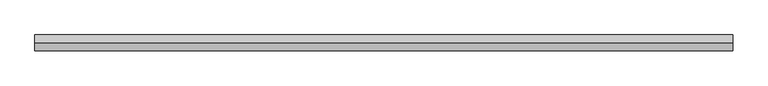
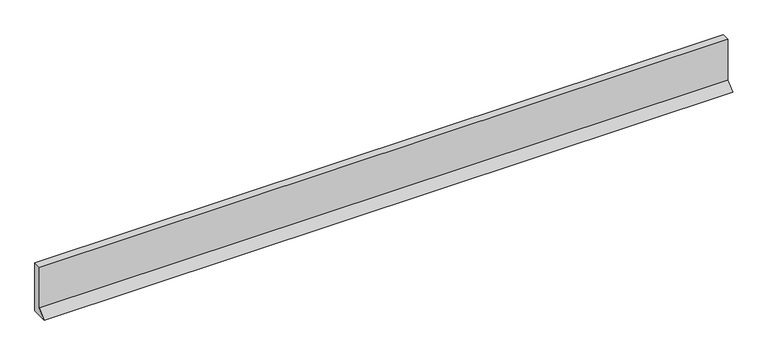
"""IFC4 building model written with IfcOpenShell, lengths in millimetres: plate geometry, ATELIERS 3S_EPURE CDB 200_HORIZONTAL : AZURO."""

import ifcopenshell
import ifcopenshell.guid

model = None  # the IFC model being written
_history = None  # IfcOwnerHistory: only IFC2X3 demands one
_inside = {}  # id of a spatial element -> (the spatial element, [elements in it])
_under = {}  # id of a project, library or spatial element -> (it, [spatial elements below it])
_declared = {}  # id of a project -> (the project, [libraries it declares])
_typed = {}  # id of a type object -> (the type object, [elements of that type])
_made_of = {}  # id of a material, layer set ... -> (it, [elements and type objects made of it])


def new_model(schema):
    """Start an empty IFC model of exactly this schema.

    Asked for "IFC4X3", IfcOpenShell would pick the latest addendum, in which some entities
    have other attributes; the version numbers below select the first issue.
    IFC2X3 requires an IfcOwnerHistory on every rooted entity: one is made here for all.
    """
    global model, _history
    if schema == "IFC4X3":
        model = ifcopenshell.file(schema_version=(4, 3, 0, 0))
    else:
        model = ifcopenshell.file(schema=schema)
    _inside.clear()
    _under.clear()
    _declared.clear()
    _typed.clear()
    _made_of.clear()
    _history = None
    if model.schema == "IFC2X3":
        org = make("IfcOrganization", Name="unknown")
        user = make(
            "IfcPersonAndOrganization",
            ThePerson=make("IfcPerson", FamilyName="unknown"),
            TheOrganization=org,
        )
        app = make(
            "IfcApplication",
            ApplicationDeveloper=org,
            Version="unknown",
            ApplicationFullName="unknown",
            ApplicationIdentifier="unknown",
        )
        _history = make(
            "IfcOwnerHistory",
            OwningUser=user,
            OwningApplication=app,
            ChangeAction="ADDED",
            CreationDate=0,
        )
    return model


def make(cls, **values):
    """One entity of the class cls with the attributes given. An attribute that is None is left unset."""
    return model.create_entity(
        cls, **{name: value for name, value in values.items() if value is not None}
    )


def rooted(cls, **values):
    """An entity with a GlobalId (a new one), such as an element, a storey or a relation."""
    return make(cls, GlobalId=ifcopenshell.guid.new(), OwnerHistory=_history, **values)


def si_unit(unit_type, name, prefix=None):
    """IfcSIUnit, for example si_unit("LENGTHUNIT", "METRE", prefix="MILLI")."""
    return make("IfcSIUnit", UnitType=unit_type, Prefix=prefix, Name=name)


def assignment(units):
    """IfcUnitAssignment: the units of a project."""
    return None if units is None else make("IfcUnitAssignment", Units=units)


def point(xyz):
    """IfcCartesianPoint."""
    return None if xyz is None else make("IfcCartesianPoint", Coordinates=xyz)


def direction(xyz):
    """IfcDirection."""
    return None if xyz is None else make("IfcDirection", DirectionRatios=xyz)


def frame(location, z_axis=None, x_axis=None):
    """IfcAxis2Placement3D, a coordinate frame: its origin and axes. An axis left out is left unset."""
    return make(
        "IfcAxis2Placement3D",
        Location=point(location),
        Axis=direction(z_axis),
        RefDirection=direction(x_axis),
    )


def origin():
    """The frame at (0, 0, 0) with its axes left unset."""
    return frame((0.0, 0.0, 0.0))


def place(relative_to, where):
    """IfcLocalPlacement: puts the frame where relative to a parent placement (None: the world)."""
    return make(
        "IfcLocalPlacement", PlacementRelTo=relative_to, RelativePlacement=where
    )


def context(
    kind, dimensions, precision=None, world=None, true_north=None, identifier=None
):
    """IfcGeometricRepresentationContext, for example the 3D "Model" context."""
    return make(
        "IfcGeometricRepresentationContext",
        ContextIdentifier=identifier,
        ContextType=kind,
        CoordinateSpaceDimension=dimensions,
        Precision=precision,
        WorldCoordinateSystem=world,
        TrueNorth=true_north,
    )


def project(units=None, contexts=None):
    """IfcProject with its units and contexts."""
    return rooted(
        "IfcProject",
        Name="project",
        RepresentationContexts=contexts,
        UnitsInContext=assignment(units),
    )


def spatial(cls, under=None, at=None, **own):
    """A site, building, storey or space (cls), placed at a placement, below another one or the project."""
    s = rooted(cls, ObjectPlacement=at, **own)
    if under is not None:
        _under.setdefault(under.id(), (under, []))[1].append(s)
    return s


def polyline(points):
    """IfcPolyline through the points."""
    return make("IfcPolyline", Points=[point(p) for p in points])


def outline(outer, holes=None, kind="AREA"):
    """IfcArbitraryClosedProfileDef: a profile drawn as a closed curve; with holes, ...WithVoids."""
    if holes is None:
        return make("IfcArbitraryClosedProfileDef", ProfileType=kind, OuterCurve=outer)
    return make(
        "IfcArbitraryProfileDefWithVoids",
        ProfileType=kind,
        OuterCurve=outer,
        InnerCurves=holes,
    )


def extrude(swept, where, along, depth):
    """IfcExtrudedAreaSolid: the profile swept, set in the frame where, extruded along a direction by depth."""
    return make(
        "IfcExtrudedAreaSolid",
        SweptArea=swept,
        Position=where,
        ExtrudedDirection=direction(along),
        Depth=depth,
    )


def shape(context_of_items, identifier, shape_type, items):
    """IfcShapeRepresentation: the items that make up one representation, for example the "Body"."""
    return make(
        "IfcShapeRepresentation",
        ContextOfItems=context_of_items,
        RepresentationIdentifier=identifier,
        RepresentationType=shape_type,
        Items=items,
    )


def source(mapping_origin, context_of_items, identifier, shape_type, items):
    """IfcRepresentationMap: a shape defined once, which mapped items show again and again."""
    return make(
        "IfcRepresentationMap",
        MappingOrigin=mapping_origin,
        MappedRepresentation=shape(context_of_items, identifier, shape_type, items),
    )


def transform(
    local_origin,
    x_axis=None,
    y_axis=None,
    z_axis=None,
    scale=None,
    scale2=None,
    scale3=None,
    uniform=True,
):
    """IfcCartesianTransformationOperator3D, or its non-uniform kind. x_axis, y_axis, z_axis: its Axis1, 2, 3."""
    if uniform:
        return make(
            "IfcCartesianTransformationOperator3D",
            Axis1=direction(x_axis),
            Axis2=direction(y_axis),
            LocalOrigin=point(local_origin),
            Scale=scale,
            Axis3=direction(z_axis),
        )
    return make(
        "IfcCartesianTransformationOperator3DnonUniform",
        Axis1=direction(x_axis),
        Axis2=direction(y_axis),
        LocalOrigin=point(local_origin),
        Scale=scale,
        Axis3=direction(z_axis),
        Scale2=scale2,
        Scale3=scale3,
    )


def mapped(mapping_source, mapping_target):
    """IfcMappedItem: shows the shape of a source again, moved by a transform."""
    return make(
        "IfcMappedItem", MappingSource=mapping_source, MappingTarget=mapping_target
    )


def made_of(thing, what):
    """Note that an element or type object is made of a material, layer set ...; save() writes the relation."""
    if what is not None:
        _made_of.setdefault(what.id(), (what, []))[1].append(thing)
    return thing


def element(
    cls,
    number,
    at=None,
    inside=None,
    cuts=None,
    type_object=None,
    material=None,
    context=None,
    identifier="Body",
    shape_type=None,
    held_by="IfcProductDefinitionShape",
    body=None,
    shapes=None,
    **own,
):
    """One element of the class cls, such as IfcWall. Its Tag is "e" and its number.

    at: its placement. inside: the storey or other place that contains it. cuts: it is an
    opening in that element (IfcRelVoidsElement). A single representation is given by context,
    identifier, shape_type and body (its items); several are given by shapes. held_by: the class
    of the entity that holds the representations. save() writes the other relations.
    """
    e = rooted(cls, Tag="e%d" % number, ObjectPlacement=at, **own)
    if body is not None:
        shapes = [shape(context, identifier, shape_type, body)]
    if shapes is not None:
        e.Representation = make(held_by, Representations=shapes)
    if inside is not None:
        _inside.setdefault(inside.id(), (inside, []))[1].append(e)
    if cuts is not None:
        rooted(
            "IfcRelVoidsElement", RelatingBuildingElement=cuts, RelatedOpeningElement=e
        )
    if type_object is not None:
        _typed.setdefault(type_object.id(), (type_object, []))[1].append(e)
    return made_of(e, material)


def aggregate(whole, parts):
    """IfcRelAggregates: a whole, such as a stair, and the parts it consists of."""
    return rooted("IfcRelAggregates", RelatingObject=whole, RelatedObjects=parts)


def save(model, path):
    """Write the relations noted so far, then the file.

    IfcRelAggregates (storeys below a building ...), IfcRelContainedInSpatialStructure (elements
    in a storey), IfcRelDefinesByType, IfcRelAssociatesMaterial and IfcRelDeclares: one each for
    every whole, place, type object, material and project.
    """
    for whole, parts in _under.values():
        aggregate(whole, parts)
    for where, things in _inside.values():
        rooted(
            "IfcRelContainedInSpatialStructure",
            RelatedElements=things,
            RelatingStructure=where,
        )
    for kind, things in _typed.values():
        rooted("IfcRelDefinesByType", RelatedObjects=things, RelatingType=kind)
    for what, things in _made_of.values():
        rooted("IfcRelAssociatesMaterial", RelatedObjects=things, RelatingMaterial=what)
    for by, libraries in _declared.values():
        rooted("IfcRelDeclares", RelatingContext=by, RelatedDefinitions=libraries)
    model.write(path)


def plate_3790eff7(model_context):
    return source(origin(), model_context, "Body", "SweptSolid", [
        extrude(outline(polyline([(-30.0201339, 31.7071152), (-30.0201339, 200.0), (0.0, 200.0), (0.0, 0.0), (-61.727249, 0.0), (-30.0201339, 31.7071152)])), frame((-1347.25, 0.0, 0.0), z_axis=(1.0, 0.0, 0.0), x_axis=(0.0, 1.0, 0.0)), (0.0, 0.0, 1.0), 2694.5),
    ])


if __name__ == "__main__":
    model = new_model("IFC4")
    model_context = context("Model", 3, world=origin())
    ifc_project = project(units=[si_unit("LENGTHUNIT", "METRE", prefix="MILLI")], contexts=[model_context])
    site = spatial("IfcSite", under=ifc_project)
    building = spatial("IfcBuilding", under=site)
    placement = place(None, origin())
    plate_shape = plate_3790eff7(model_context)
    element("IfcPlate", 1, ObjectType="ATELIERS 3S_EPURE CDB 200_HORIZONTAL : AZURO", at=placement, inside=building, context=model_context, shape_type="MappedRepresentation", body=[
        mapped(plate_shape, transform((0.0, 0.0, 0.0), x_axis=(1.0, 0.0, 0.0), y_axis=(0.0, 1.0, 0.0), z_axis=(0.0, 0.0, 1.0))),
    ])
    save(model, "model.ifc")
